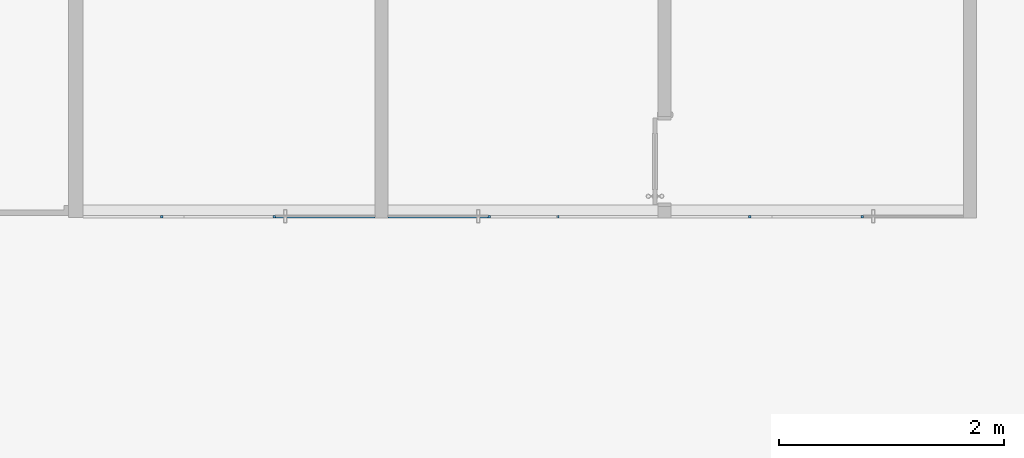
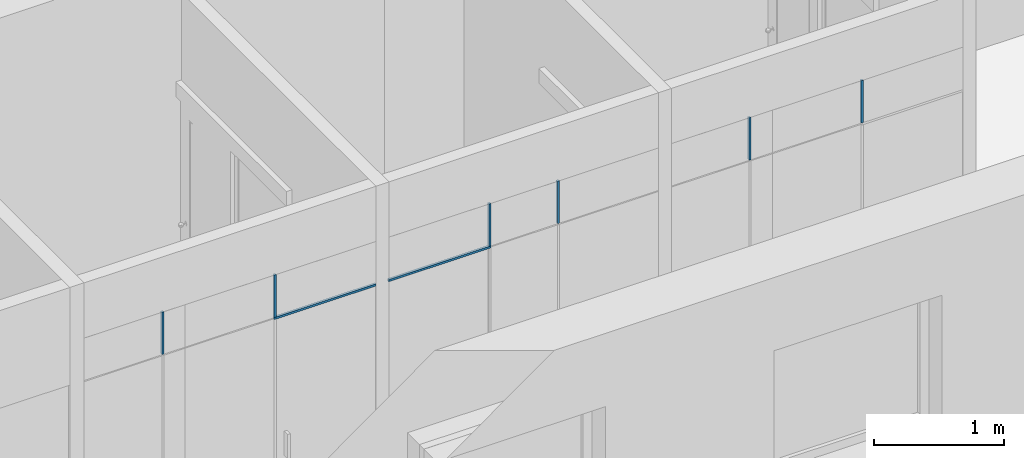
# One storey, part 4 of 49: 8 members, 3 elements without a shape of their own.
"""IFC2X3 building model written with IfcOpenShell, lengths in millimetres."""

from ifc_helpers import new_model, entity, si_unit, converted_unit, derived_unit, direction, frame, origin, origin_2d_with_axis, place, context, subcontext, project, spatial, rectangle, extrude, source, transform, mapped, material, type_object, type_shapes, element, aggregate, save


model = new_model("IFC2X3")

# Units and contexts
model_context = context("Model", 3, precision=0.01, world=origin(), true_north=direction((6.12303176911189e-17, 1.0)))
body_context = subcontext(model_context, "Body", "Model", "MODEL_VIEW")
ifc_project = project(units=[si_unit("LENGTHUNIT", "METRE", prefix="MILLI"), si_unit("AREAUNIT", "SQUARE_METRE"), si_unit("VOLUMEUNIT", "CUBIC_METRE"), converted_unit("PLANEANGLEUNIT", "DEGREE", entity("IfcRatioMeasure", 0.0174532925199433), si_unit("PLANEANGLEUNIT", "RADIAN"), dimensions=[0, 0, 0, 0, 0, 0, 0]), si_unit("MASSUNIT", "GRAM", prefix="KILO"), derived_unit("MASSDENSITYUNIT", [(si_unit("MASSUNIT", "GRAM", prefix="KILO"), 1), (si_unit("LENGTHUNIT", "METRE"), -3)]), si_unit("TIMEUNIT", "SECOND"), si_unit("FREQUENCYUNIT", "HERTZ"), si_unit("THERMODYNAMICTEMPERATUREUNIT", "DEGREE_CELSIUS"), derived_unit("THERMALTRANSMITTANCEUNIT", [(si_unit("MASSUNIT", "GRAM", prefix="KILO"), 1), (si_unit("THERMODYNAMICTEMPERATUREUNIT", "KELVIN"), -1), (si_unit("TIMEUNIT", "SECOND"), -3)]), derived_unit("VOLUMETRICFLOWRATEUNIT", [(si_unit("LENGTHUNIT", "METRE"), 3), (si_unit("TIMEUNIT", "SECOND"), -1)]), si_unit("ELECTRICCURRENTUNIT", "AMPERE"), si_unit("ELECTRICVOLTAGEUNIT", "VOLT"), si_unit("POWERUNIT", "WATT"), si_unit("FORCEUNIT", "NEWTON", prefix="KILO"), si_unit("ILLUMINANCEUNIT", "LUX"), si_unit("LUMINOUSFLUXUNIT", "LUMEN"), si_unit("LUMINOUSINTENSITYUNIT", "CANDELA"), derived_unit("USERDEFINED", [(si_unit("MASSUNIT", "GRAM", prefix="KILO"), -1), (si_unit("LENGTHUNIT", "METRE"), -2), (si_unit("TIMEUNIT", "SECOND"), 3), (si_unit("LUMINOUSFLUXUNIT", "LUMEN"), 1)]), derived_unit("LINEARVELOCITYUNIT", [(si_unit("LENGTHUNIT", "METRE"), 1), (si_unit("TIMEUNIT", "SECOND"), -1)]), si_unit("PRESSUREUNIT", "PASCAL"), derived_unit("USERDEFINED", [(si_unit("LENGTHUNIT", "METRE"), -2), (si_unit("MASSUNIT", "GRAM", prefix="KILO"), 1), (si_unit("TIMEUNIT", "SECOND"), -2)])], contexts=[model_context])

# Site, building, storey
site_placement = place(None, frame((-151.875543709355, 2715.0, 0.0)))
site = spatial("IfcSite", under=ifc_project, at=site_placement, Name="Surface", CompositionType="ELEMENT")
building_placement = place(site_placement, origin())
building = spatial("IfcBuilding", under=site, at=building_placement, CompositionType="ELEMENT")
storey_placement = place(building_placement, origin())
storey = spatial("IfcBuildingStorey", under=building, at=storey_placement, Name="1 korrus", CompositionType="ELEMENT", Elevation=3.0969999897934e-10)

# Curtain wall, members
curtain_wall_type_1 = type_object("IfcCurtainWallType", Name="Curtain Wall:Klaassein KLS-01", PredefinedType="NOTDEFINED")
curtain_wall_1_placement = place(storey_placement, origin())
curtain_wall_1 = element("IfcCurtainWall", 1, at=curtain_wall_1_placement, inside=storey, type_object=curtain_wall_type_1, Name="Curtain Wall:Klaassein KLS-01", ObjectType="Curtain Wall:Klaassein KLS-01")
ifc_material = material(Name="__Uks_hele tamm")
member_type_1 = type_object("IfcMemberType", Name="20 x 20mm", PredefinedType="MEMBER")
shared_shape_1 = source(origin(), body_context, "Body", "SweptSolid", [
    extrude(rectangle(XDim=20.0, YDim=20.0, at=origin_2d_with_axis()), frame((0.0, 0.0, -400.0), z_axis=(0.0, 0.0, 1.0), x_axis=(0.0, -1.0, 0.0)), (0.0, 0.0, 1.0), 400.000000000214),
])
type_shapes(member_type_1, [shared_shape_1])
member_1_placement = place(storey_placement, frame((17755.2710850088, 3017.49999999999, 2100.0), z_axis=(0.0, 0.0, -1.0), x_axis=(1.0, 0.0, 0.0)))
member_1 = element("IfcMember", 2, at=member_1_placement, type_object=member_type_1, material=ifc_material, Name="Rectangular Mullion:20 x 20mm", ObjectType="20 x 20mm", context=body_context, shape_type="MappedRepresentation", body=[
    mapped(shared_shape_1, transform((0.0, 0.0, 0.0), scale=1.0)),
])
member_2_placement = place(storey_placement, frame((18755.2710850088, 3017.49999999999, 2100.0), z_axis=(0.0, 0.0, -1.0), x_axis=(1.0, 0.0, 0.0)))
member_2 = element("IfcMember", 3, at=member_2_placement, type_object=member_type_1, material=ifc_material, Name="Rectangular Mullion:20 x 20mm", ObjectType="20 x 20mm", context=body_context, shape_type="MappedRepresentation", body=[
    mapped(shared_shape_1, transform((0.0, 0.0, 0.0), scale=1.0)),
])
aggregate(curtain_wall_1, [member_1, member_2])

curtain_wall_2_placement = place(storey_placement, origin())
curtain_wall_2 = element("IfcCurtainWall", 4, at=curtain_wall_2_placement, inside=storey, type_object=curtain_wall_type_1, Name="Curtain Wall:Klaassein KLS-01", ObjectType="Curtain Wall:Klaassein KLS-01")
member_3_placement = place(storey_placement, frame((12524.2710850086, 3017.50000000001, 2100.0), z_axis=(0.0, 0.0, -1.0), x_axis=(1.0, 0.0, 0.0)))
member_3 = element("IfcMember", 5, at=member_3_placement, type_object=member_type_1, material=ifc_material, Name="Rectangular Mullion:20 x 20mm", ObjectType="20 x 20mm", context=body_context, shape_type="MappedRepresentation", body=[
    mapped(shared_shape_1, transform((0.0, 0.0, 0.0), scale=1.0)),
])
member_4_placement = place(storey_placement, frame((13524.2710850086, 3017.50000000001, 2100.0), z_axis=(0.0, 0.0, -1.0), x_axis=(1.0, 0.0, 0.0)))
member_4 = element("IfcMember", 6, at=member_4_placement, type_object=member_type_1, material=ifc_material, Name="Rectangular Mullion:20 x 20mm", ObjectType="20 x 20mm", context=body_context, shape_type="MappedRepresentation", body=[
    mapped(shared_shape_1, transform((0.0, 0.0, 0.0), scale=1.0)),
])
member_type_2 = type_object("IfcMemberType", Name="20 x 20mm", PredefinedType="MEMBER")
shared_shape_2 = source(origin(), body_context, "Body", "SweptSolid", [
    extrude(rectangle(XDim=20.0, YDim=20.0, at=origin_2d_with_axis()), frame((0.0, 0.0, -908.0), z_axis=(0.0, 0.0, 1.0), x_axis=(0.0, -1.0, 0.0)), (0.0, 0.0, 1.0), 907.999999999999),
])
type_shapes(member_type_2, [shared_shape_2])
member_5_placement = place(storey_placement, frame((14422.2710850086, 3017.50000000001, 2090.0), z_axis=(1.0, 0.0, 0.0), x_axis=(0.0, 0.0, 1.0)))
member_5 = element("IfcMember", 7, at=member_5_placement, type_object=member_type_2, material=ifc_material, Name="Rectangular Mullion:20 x 20mm", ObjectType="20 x 20mm", context=body_context, shape_type="MappedRepresentation", body=[
    mapped(shared_shape_2, transform((0.0, 0.0, 0.0), scale=1.0)),
])
aggregate(curtain_wall_2, [member_3, member_4, member_5])

curtain_wall_type_2 = type_object("IfcCurtainWallType", Name="Curtain Wall:Klaassein KLS-02", PredefinedType="NOTDEFINED")
curtain_wall_3_placement = place(storey_placement, origin())
curtain_wall_3 = element("IfcCurtainWall", 8, at=curtain_wall_3_placement, inside=storey, type_object=curtain_wall_type_2, Name="Curtain Wall:Klaassein KLS-02", ObjectType="Curtain Wall:Klaassein KLS-02")
member_type_3 = type_object("IfcMemberType", Name="20 x 20mm", PredefinedType="MEMBER")
shared_shape_3 = source(origin(), body_context, "Body", "SweptSolid", [
    extrude(rectangle(XDim=20.0, YDim=20.0, at=origin_2d_with_axis()), frame((0.0, 0.0, -400.0), z_axis=(0.0, 0.0, 1.0), x_axis=(0.0, -1.0, 0.0)), (0.0, 0.0, 1.0), 400.000000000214),
])
type_shapes(member_type_3, [shared_shape_3])
member_6_placement = place(storey_placement, frame((16048.2710847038, 3017.50000000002, 2100.0), z_axis=(0.0, 0.0, -1.0), x_axis=(-1.0, 0.0, 0.0)))
member_6 = element("IfcMember", 9, at=member_6_placement, type_object=member_type_3, material=ifc_material, Name="Rectangular Mullion:20 x 20mm", ObjectType="20 x 20mm", context=body_context, shape_type="MappedRepresentation", body=[
    mapped(shared_shape_3, transform((0.0, 0.0, 0.0), scale=1.0)),
])
member_7_placement = place(storey_placement, frame((15438.2710847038, 3017.50000000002, 2100.0), z_axis=(0.0, 0.0, -1.0), x_axis=(-1.0, 0.0, 0.0)))
member_7 = element("IfcMember", 10, at=member_7_placement, type_object=member_type_3, material=ifc_material, Name="Rectangular Mullion:20 x 20mm", ObjectType="20 x 20mm", context=body_context, shape_type="MappedRepresentation", body=[
    mapped(shared_shape_3, transform((0.0, 0.0, 0.0), scale=1.0)),
])
member_type_4 = type_object("IfcMemberType", Name="20 x 20mm", PredefinedType="MEMBER")
shared_shape_4 = source(origin(), body_context, "Body", "SweptSolid", [
    extrude(rectangle(XDim=20.0, YDim=20.0, at=origin_2d_with_axis()), frame((0.0, 0.0, -912.0), z_axis=(0.0, 0.0, 1.0), x_axis=(0.0, -1.0, 0.0)), (0.0, 0.0, 1.0), 911.999999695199),
])
type_shapes(member_type_4, [shared_shape_4])
member_8_placement = place(storey_placement, frame((14536.2710850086, 3017.50000000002, 2090.0), z_axis=(-1.0, 0.0, 0.0), x_axis=(0.0, 0.0, 1.0)))
member_8 = element("IfcMember", 11, at=member_8_placement, type_object=member_type_4, material=ifc_material, Name="Rectangular Mullion:20 x 20mm", ObjectType="20 x 20mm", context=body_context, shape_type="MappedRepresentation", body=[
    mapped(shared_shape_4, transform((0.0, 0.0, 0.0), scale=1.0)),
])
aggregate(curtain_wall_3, [member_6, member_7, member_8])

save(model, "model.ifc")
